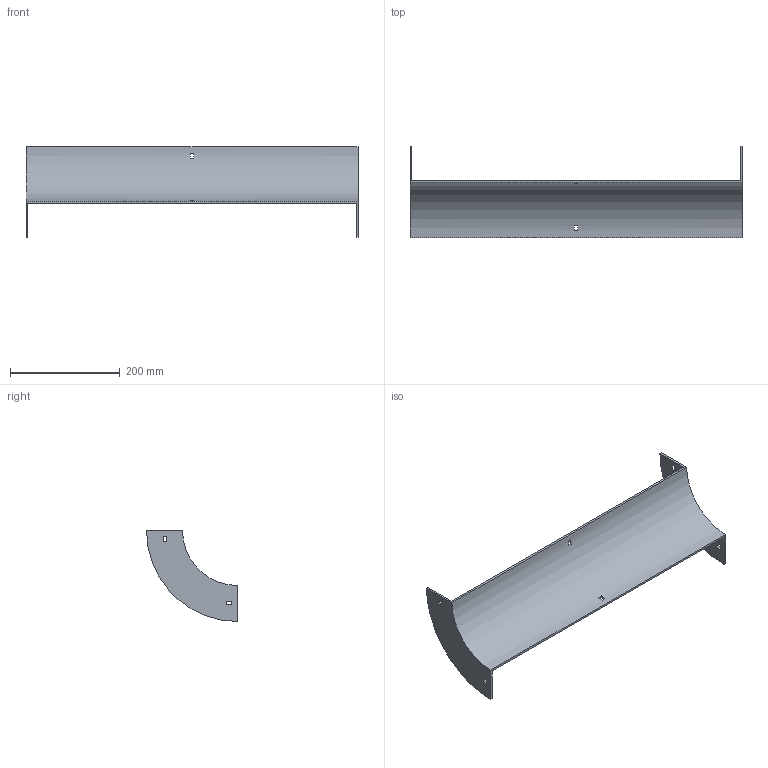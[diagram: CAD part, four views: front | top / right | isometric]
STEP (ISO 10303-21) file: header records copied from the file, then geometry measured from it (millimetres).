
FILE_DESCRIPTION (( 'STEP AP214' ), '1' );
FILE_NAME ('33B1H600.step', '2025-02-21T09:32:20', ( '' ), ( '' ), 'SwSTEP 2.0', 'SolidWorks 2023', '' );
FILE_SCHEMA (( 'AUTOMOTIVE_DESIGN' ));
Length unit declared in the file: millimetre
Products named in the file (1): 33B1H600
Bounding box: 604 x 165.5 x 165.5 mm (x, y, z)
Volume: 428174.5 mm3; surface area: 252263.7 mm2
Topology: 1 solids, 1 shells, 34 faces, 96 edges, 64 vertices
Faces by surface type: plane 30, cylinder 4
Entity records: 1143 total; most frequent: CARTESIAN_POINT 195, ORIENTED_EDGE 192, DIRECTION 182, EDGE_CURVE 96, LINE 80, VECTOR 80, VERTEX_POINT 64, AXIS2_PLACEMENT_3D 51
